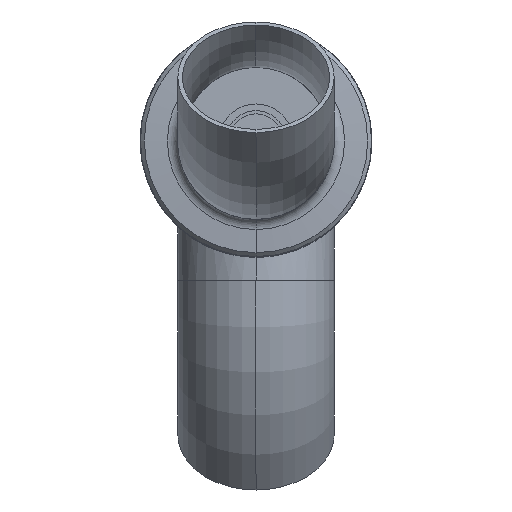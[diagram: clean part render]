
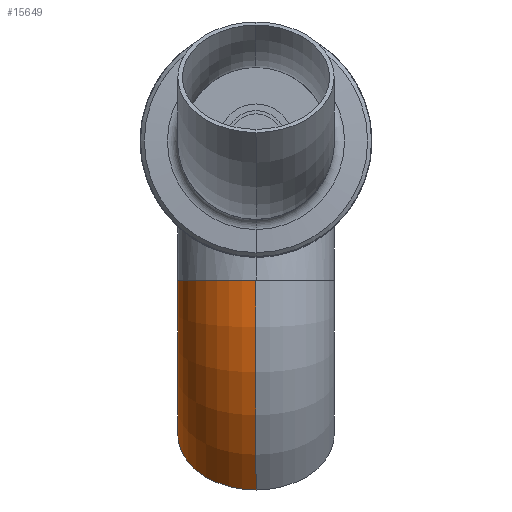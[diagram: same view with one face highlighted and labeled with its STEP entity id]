
A CAD part, front view. The second image highlights one B-rep face of the part: STEP entity #15649.
In plain terms, the highlighted toroidal (fillet/blend) face has major radius 305 mm and minor radius 109.55 mm.
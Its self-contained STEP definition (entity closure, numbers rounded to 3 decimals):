
#16409 = VERTEX_POINT ( 'NONE', #10692 ) ;
#17517 = VERTEX_POINT ( 'NONE', #13963 ) ;
#17734 = EDGE_CURVE ( 'NONE', #18826, #17517, #14384, .T. ) ;
#18212 = CIRCLE ( 'NONE', #18213, 109.55 ) ;
#18213 = AXIS2_PLACEMENT_3D ( 'NONE', #18214, #18215, #18216 ) ;
#18214 = CARTESIAN_POINT ( 'NONE',  ( 0., 0., 0. ) ) ;
#18215 = DIRECTION ( 'NONE',  ( 1., 0., 0. ) ) ;
#18216 = DIRECTION ( 'NONE',  ( 0., 0., -1. ) ) ;
#18607 = VERTEX_POINT ( 'NONE', #3328 ) ;
#18826 = VERTEX_POINT ( 'NONE', #3583 ) ;
#3328 = CARTESIAN_POINT ( 'NONE',  ( 138.204, -166.796, 0. ) ) ;
#3583 = CARTESIAN_POINT ( 'NONE',  ( 293.131, -11.869, 0. ) ) ;
#3731 = CIRCLE ( 'NONE', #3732, 109.55 ) ;
#3732 = AXIS2_PLACEMENT_3D ( 'NONE', #3733, #3734, #3735 ) ;
#3733 = CARTESIAN_POINT ( 'NONE',  ( 215.668, -89.332, 0. ) ) ;
#3734 = DIRECTION ( 'NONE',  ( 0.707, -0.707, 0. ) ) ;
#3735 = DIRECTION ( 'NONE',  ( 0., 0., -1. ) ) ;
#5651 = EDGE_CURVE ( 'NONE', #18607, #16409, #7667, .T. ) ;
#7667 = CIRCLE ( 'NONE', #7668, 195.45 ) ;
#7668 = AXIS2_PLACEMENT_3D ( 'NONE', #7669, #7670, #7671 ) ;
#7669 = CARTESIAN_POINT ( 'NONE',  ( 0., -305., 0. ) ) ;
#7670 = DIRECTION ( 'NONE',  ( 0., 0., 1. ) ) ;
#7671 = DIRECTION ( 'NONE',  ( 1., 0., 0. ) ) ;
#7858 = FACE_OUTER_BOUND ( 'NONE', #15201, .T. ) ;
#7859 = TOROIDAL_SURFACE ( 'NONE', #7860, 305., 109.55 ) ;
#7860 = AXIS2_PLACEMENT_3D ( 'NONE', #7861, #7862, #7863 ) ;
#7861 = CARTESIAN_POINT ( 'NONE',  ( 0., -305., 0. ) ) ;
#7862 = DIRECTION ( 'NONE',  ( 0., 0., 1. ) ) ;
#7863 = DIRECTION ( 'NONE',  ( 1., 0., 0. ) ) ;
#10692 = CARTESIAN_POINT ( 'NONE',  ( 0., -109.55, 0. ) ) ;
#12284 = EDGE_CURVE ( 'NONE', #16409, #17517, #18212, .T. ) ;
#12647 = ORIENTED_EDGE ( 'NONE', *, *, #12284, .T. ) ;
#13164 = ORIENTED_EDGE ( 'NONE', *, *, #5651, .T. ) ;
#13682 = EDGE_CURVE ( 'NONE', #18607, #18826, #3731, .T. ) ;
#13963 = CARTESIAN_POINT ( 'NONE',  ( 0., 109.55, 0. ) ) ;
#14049 = ORIENTED_EDGE ( 'NONE', *, *, #13682, .F. ) ;
#14384 = CIRCLE ( 'NONE', #14385, 414.55 ) ;
#14385 = AXIS2_PLACEMENT_3D ( 'NONE', #14386, #14387, #14388 ) ;
#14386 = CARTESIAN_POINT ( 'NONE',  ( 0., -305., 0. ) ) ;
#14387 = DIRECTION ( 'NONE',  ( 0., 0., 1. ) ) ;
#14388 = DIRECTION ( 'NONE',  ( 1., 0., 0. ) ) ;
#14567 = ORIENTED_EDGE ( 'NONE', *, *, #17734, .F. ) ;
#15201 = EDGE_LOOP ( 'NONE', ( #14567, #14049, #13164, #12647 ) ) ;
#15649 = ADVANCED_FACE ( 'NONE', ( #7858 ), #7859, .T. ) ;
